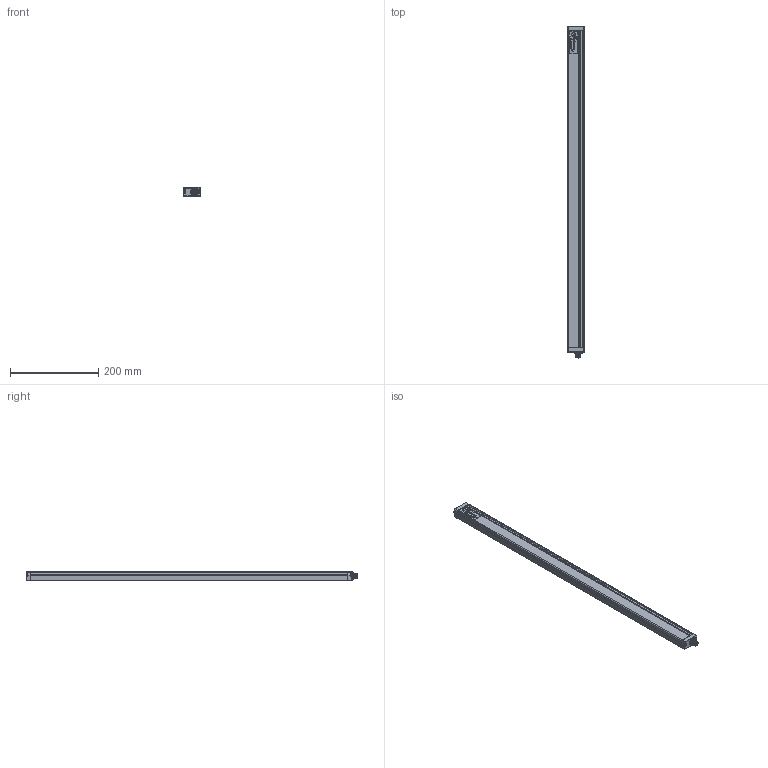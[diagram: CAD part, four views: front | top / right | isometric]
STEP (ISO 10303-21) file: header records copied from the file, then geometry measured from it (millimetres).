
FILE_DESCRIPTION(/* description */ (''),/* implementation_level */ '2;1');
FILE_NAME(/* name */ 'C:\Users\andre\SynologyDrive\Optoscan\Libreria Componenti\00 - Barriere\Barriera sorgente\Argo_720_RX.stp',/* time_stamp */ '2021-04-22T11:55:24+02:00',/* author */ ('andre'),/* organization */ (''),/* preprocessor_version */ 'ST-DEVELOPER v18',/* originating_system */ 'Autodesk Inventor 2020',/* authorisation */ '');
FILE_SCHEMA (('AUTOMOTIVE_DESIGN { 1 0 10303 214 3 1 1 }'));
Length unit declared in the file: millimetre
Products named in the file (1): Argo_720_RX
Bounding box: 40.5 x 753.3 x 20.75 mm (x, y, z)
Volume: 151569.2 mm3; surface area: 197059 mm2
Topology: 1 solids, 1 shells, 692 faces, 1898 edges, 1217 vertices
Faces by surface type: plane 319, cylinder 195, bspline 94, torus 70, cone 8, sphere 6
Full cylindrical faces by diameter (mm): 1 x4, 2.459 x4, 2.5 x4, 3 x4, 3.5 x4, 5.5 x4, 8 x1, 10.5 x2, 11.75 x9, 15.7 x1, 17.5 x1
Entity records: 28165 total; most frequent: CARTESIAN_POINT 10195, ORIENTED_EDGE 3778, DIRECTION 3387, EDGE_CURVE 1889, VERTEX_POINT 1217, AXIS2_PLACEMENT_3D 1183, LINE 1021, VECTOR 1021
